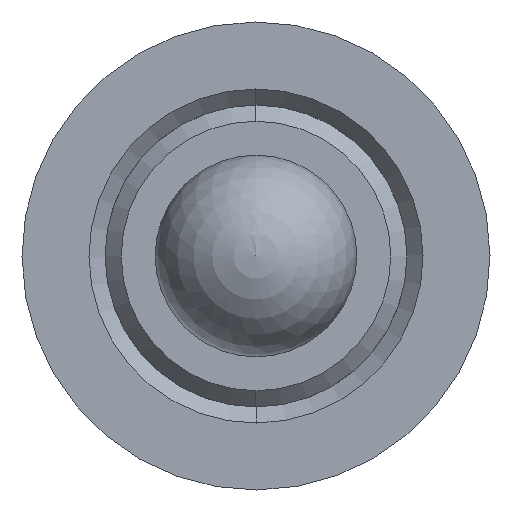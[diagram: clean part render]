
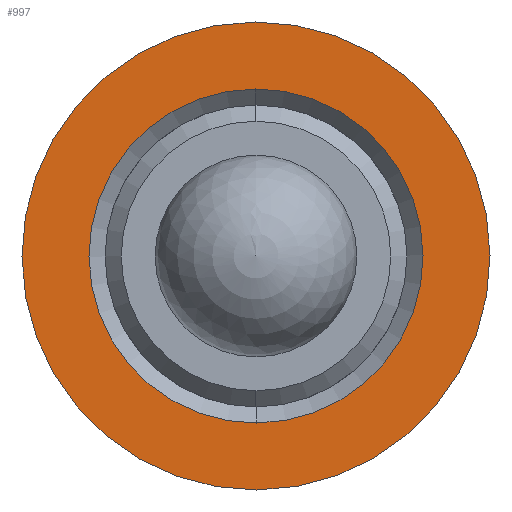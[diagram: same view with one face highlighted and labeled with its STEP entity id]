
A CAD part, left-side view. The second image highlights one B-rep face of the part: STEP entity #997.
In plain terms, the highlighted planar face has unit normal (-1, 0, 0).
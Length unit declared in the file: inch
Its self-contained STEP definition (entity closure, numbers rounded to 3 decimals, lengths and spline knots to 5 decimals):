
#75 = CIRCLE ( 'NONE', #1207, 0.145 ) ;
#153 = CIRCLE ( 'NONE', #196, 0.1035 ) ;
#157 = FACE_OUTER_BOUND ( 'NONE', #938, .T. ) ;
#163 = VERTEX_POINT ( 'NONE', #1133 ) ;
#178 = DIRECTION ( 'NONE',  ( -1., 0., 0. ) ) ;
#192 = DIRECTION ( 'NONE',  ( 0., 0.003, 1. ) ) ;
#196 = AXIS2_PLACEMENT_3D ( 'NONE', #328, #307, #1295 ) ;
#228 = ORIENTED_EDGE ( 'NONE', *, *, #469, .T. ) ;
#268 = DIRECTION ( 'NONE',  ( 0., 0.003, 1. ) ) ;
#295 = EDGE_CURVE ( 'NONE', #1175, #656, #75, .T. ) ;
#307 = DIRECTION ( 'NONE',  ( 1., 0., 0. ) ) ;
#328 = CARTESIAN_POINT ( 'NONE',  ( 0.00013, 0.96885, 1.48321 ) ) ;
#391 = AXIS2_PLACEMENT_3D ( 'NONE', #1104, #1286, #1289 ) ;
#468 = ORIENTED_EDGE ( 'NONE', *, *, #1126, .T. ) ;
#469 = EDGE_CURVE ( 'NONE', #656, #1175, #1248, .T. ) ;
#541 = CARTESIAN_POINT ( 'NONE',  ( 0.00013, 0.96885, 1.48321 ) ) ;
#552 = VERTEX_POINT ( 'NONE', #804 ) ;
#626 = DIRECTION ( 'NONE',  ( 0., -0.003, -1. ) ) ;
#656 = VERTEX_POINT ( 'NONE', #838 ) ;
#692 = CARTESIAN_POINT ( 'NONE',  ( 0.00013, 0.96932, 1.6282 ) ) ;
#708 = PLANE ( 'NONE',  #391 ) ;
#720 = DIRECTION ( 'NONE',  ( 1., 0., 0. ) ) ;
#798 = CIRCLE ( 'NONE', #1338, 0.1035 ) ;
#804 = CARTESIAN_POINT ( 'NONE',  ( 0.00013, 0.96919, 1.58671 ) ) ;
#832 = CARTESIAN_POINT ( 'NONE',  ( 0.00013, 0.96885, 1.48321 ) ) ;
#838 = CARTESIAN_POINT ( 'NONE',  ( 0.00013, 0.96838, 1.33821 ) ) ;
#938 = EDGE_LOOP ( 'NONE', ( #1497, #228 ) ) ;
#944 = CARTESIAN_POINT ( 'NONE',  ( 0.00013, 0.96885, 1.48321 ) ) ;
#983 = EDGE_CURVE ( 'NONE', #552, #163, #798, .T. ) ;
#997 = ADVANCED_FACE ( 'NONE', ( #1354, #157 ), #708, .F. ) ;
#1104 = CARTESIAN_POINT ( 'NONE',  ( 0.00013, 0.96885, 1.48321 ) ) ;
#1126 = EDGE_CURVE ( 'NONE', #163, #552, #153, .T. ) ;
#1133 = CARTESIAN_POINT ( 'NONE',  ( 0.00013, 0.96851, 1.37971 ) ) ;
#1173 = ORIENTED_EDGE ( 'NONE', *, *, #983, .T. ) ;
#1175 = VERTEX_POINT ( 'NONE', #692 ) ;
#1207 = AXIS2_PLACEMENT_3D ( 'NONE', #541, #1210, #268 ) ;
#1210 = DIRECTION ( 'NONE',  ( -1., 0., 0. ) ) ;
#1242 = EDGE_LOOP ( 'NONE', ( #1173, #468 ) ) ;
#1248 = CIRCLE ( 'NONE', #1365, 0.145 ) ;
#1286 = DIRECTION ( 'NONE',  ( 1., 0., 0. ) ) ;
#1289 = DIRECTION ( 'NONE',  ( 0., -0.003, -1. ) ) ;
#1295 = DIRECTION ( 'NONE',  ( 0., -0.003, -1. ) ) ;
#1338 = AXIS2_PLACEMENT_3D ( 'NONE', #832, #720, #626 ) ;
#1354 = FACE_BOUND ( 'NONE', #1242, .T. ) ;
#1365 = AXIS2_PLACEMENT_3D ( 'NONE', #944, #178, #192 ) ;
#1497 = ORIENTED_EDGE ( 'NONE', *, *, #295, .T. ) ;
